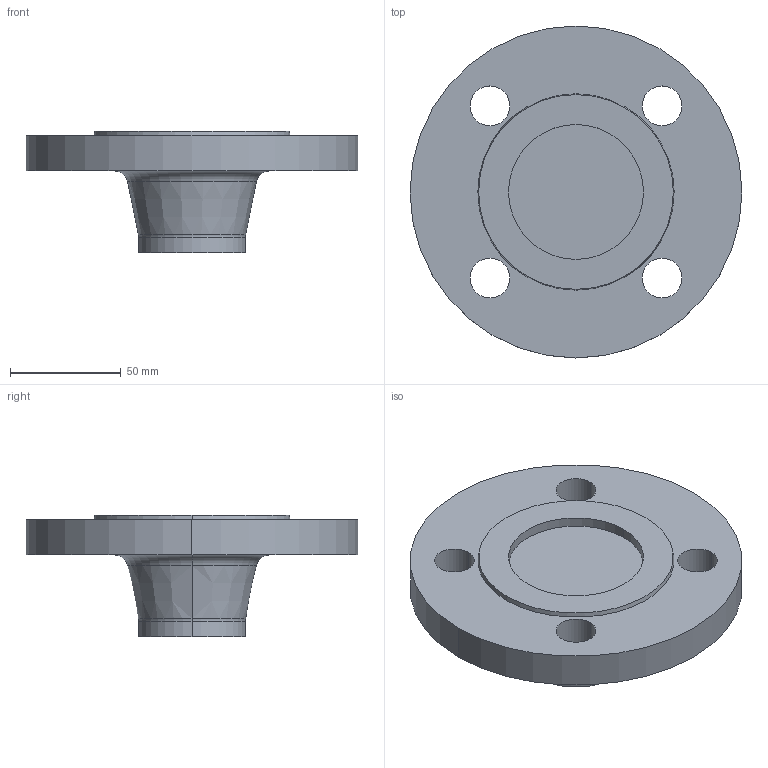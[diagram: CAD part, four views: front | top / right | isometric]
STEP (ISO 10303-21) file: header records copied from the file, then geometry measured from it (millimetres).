
FILE_DESCRIPTION (( 'STEP AP214' ), '1' );
FILE_NAME ('PN40 DN40 Type 21(ii) - Type G Face.STEP', '2018-12-30T01:19:12', ( '' ), ( '' ), 'SwSTEP 2.0', 'SolidWorks 2019', '' );
FILE_SCHEMA (( 'AUTOMOTIVE_DESIGN' ));
Length unit declared in the file: millimetre
Products named in the file (1): PN40 DN40 Type 21(ii) - Type G Face
Bounding box: 150 x 150 x 55 mm (x, y, z)
Volume: 348629.1 mm3; surface area: 50756.9 mm2
Topology: 1 solids, 1 shells, 27 faces, 60 edges, 38 vertices
Faces by surface type: cylinder 14, plane 5, torus 4, cone 4
Entity records: 818 total; most frequent: DIRECTION 158, CARTESIAN_POINT 126, ORIENTED_EDGE 120, AXIS2_PLACEMENT_3D 70, EDGE_CURVE 60, CIRCLE 42, EDGE_LOOP 38, VERTEX_POINT 38
